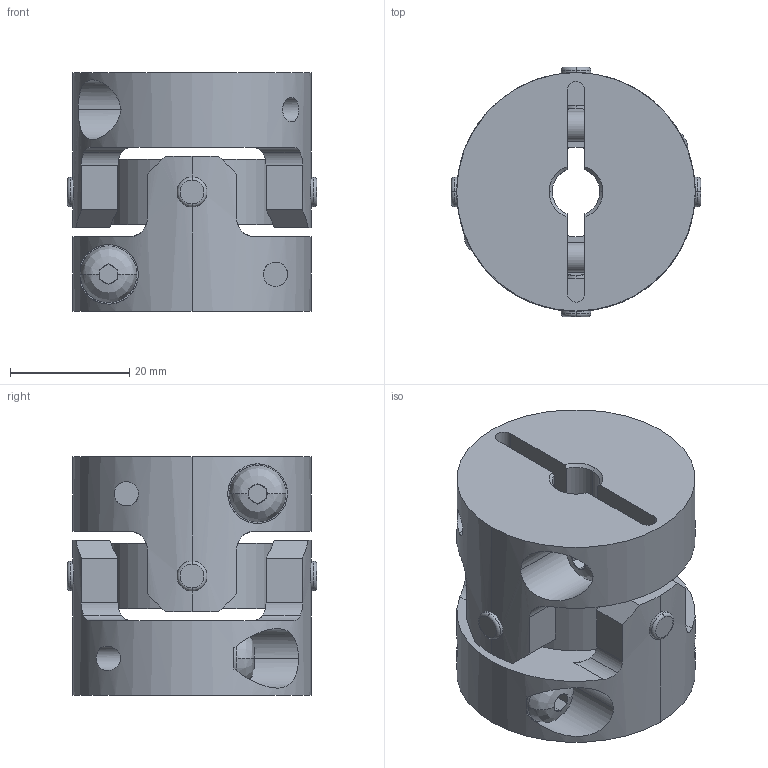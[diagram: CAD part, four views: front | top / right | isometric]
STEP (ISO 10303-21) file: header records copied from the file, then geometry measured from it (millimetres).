
FILE_DESCRIPTION((''),'2;1');
FILE_NAME('UA-40C-8×17.stp','2013-11-19T08:15:18',(''),(''),'AutoCAD STEP 2000i','AutoCAD 2000i',', , ');
FILE_SCHEMA(('CONFIG_CONTROL_DESIGN'));
Length unit declared in the file: millimetre
Products named in the file (7): UA-40C-8×18; 忣兜1; UA-4002-D18; BTN-M5; UA-4002-D08-1; UA-4002-D08; UA40-SEN
Assembly tree (8 placements, depth 3):
  UA-40C-8×18
    忣兜1
    UA-4002-D18
      BTN-M5
    UA-4002-D08-1
      BTN-M5
    UA-4002-D08
      BTN-M5
    UA40-SEN
Bounding box: 41.81 x 41.81 x 40 mm (x, y, z)
Volume: 33767.4 mm3; surface area: 15265 mm2
Topology: 1 solids, 1 shells, 252 faces, 654 edges, 412 vertices
Faces by surface type: plane 124, cylinder 96, cone 16, bspline 8, torus 8
Entity records: 9705 total; most frequent: CARTESIAN_POINT 3363, DIRECTION 1308, ORIENTED_EDGE 1308, EDGE_CURVE 654, AXIS2_PLACEMENT_3D 505, VERTEX_POINT 412, VECTOR 298, LINE 298
